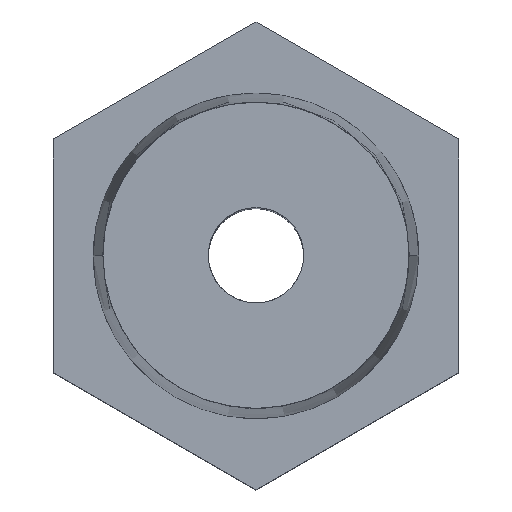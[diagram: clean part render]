
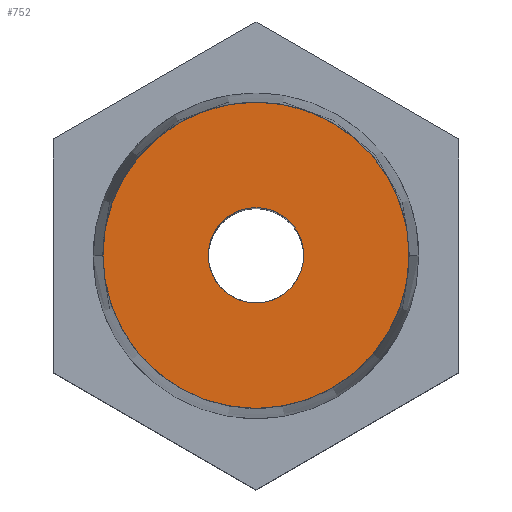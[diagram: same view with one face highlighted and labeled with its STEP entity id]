
A CAD part, top view. The second image highlights one B-rep face of the part: STEP entity #752.
In plain terms, the highlighted planar face has unit normal (0, 0, 1).
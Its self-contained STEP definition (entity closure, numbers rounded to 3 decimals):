
#21=FACE_BOUND('',#145,.T.);
#30=B_SPLINE_CURVE_WITH_KNOTS('',3,(#1611,#1612,#1613,#1614,#1615,#1616,
#1617,#1618,#1619,#1620,#1621,#1622,#1623,#1624,#1625,#1626,#1627,#1628,
#1629,#1630,#1631,#1632,#1633,#1634,#1635,#1636,#1637,#1638,#1639,#1640,
#1641,#1642,#1643,#1644,#1645,#1646,#1647),.UNSPECIFIED.,.T.,.F.,(4,3,3,
3,3,3,3,3,3,3,3,3,4),(-3.142,-2.508,-1.875,
-1.571,-0.937,-0.305,0.,0.634,
1.266,1.571,2.205,2.837,3.142),
 .UNSPECIFIED.);
#31=B_SPLINE_CURVE_WITH_KNOTS('',3,(#1649,#1650,#1651,#1652,#1653,#1654,
#1655,#1656,#1657,#1658,#1659,#1660,#1661,#1662,#1663,#1664,#1665,#1666,
#1667,#1668,#1669,#1670,#1671,#1672,#1673),.UNSPECIFIED.,.T.,.F.,(4,3,3,
3,3,3,3,3,4),(-3.142,-2.309,-1.571,-0.738,
0.,0.833,1.571,2.404,3.142),
 .UNSPECIFIED.);
#50=PLANE('',#871);
#109=FACE_OUTER_BOUND('',#144,.T.);
#144=EDGE_LOOP('',(#711));
#145=EDGE_LOOP('',(#712));
#467=VERTEX_POINT('',#1610);
#468=VERTEX_POINT('',#1648);
#589=EDGE_CURVE('',#467,#467,#30,.T.);
#590=EDGE_CURVE('',#468,#468,#31,.T.);
#711=ORIENTED_EDGE('',*,*,#589,.T.);
#712=ORIENTED_EDGE('',*,*,#590,.T.);
#752=ADVANCED_FACE('',(#109,#21),#50,.T.);
#871=AXIS2_PLACEMENT_3D('',#1609,#1060,#1061);
#1060=DIRECTION('center_axis',(0.,0.,1.));
#1061=DIRECTION('ref_axis',(1.,0.,0.));
#1609=CARTESIAN_POINT('Origin',(0.,-6.436,33.));
#1610=CARTESIAN_POINT('',(-6.426,0.,33.));
#1611=CARTESIAN_POINT('Ctrl Pts',(-6.426,0.,33.));
#1612=CARTESIAN_POINT('Ctrl Pts',(-6.426,-1.222,33.));
#1613=CARTESIAN_POINT('Ctrl Pts',(-6.042,-2.611,33.));
#1614=CARTESIAN_POINT('Ctrl Pts',(-5.208,-3.764,33.));
#1615=CARTESIAN_POINT('Ctrl Pts',(-4.377,-4.914,33.));
#1616=CARTESIAN_POINT('Ctrl Pts',(-3.117,-5.778,33.));
#1617=CARTESIAN_POINT('Ctrl Pts',(-1.83,-6.16,33.));
#1618=CARTESIAN_POINT('Ctrl Pts',(-1.21,-6.344,33.));
#1619=CARTESIAN_POINT('Ctrl Pts',(-0.587,-6.426,33.));
#1620=CARTESIAN_POINT('Ctrl Pts',(0.,-6.426,33.));
#1621=CARTESIAN_POINT('Ctrl Pts',(1.222,-6.426,33.));
#1622=CARTESIAN_POINT('Ctrl Pts',(2.611,-6.042,33.));
#1623=CARTESIAN_POINT('Ctrl Pts',(3.764,-5.208,33.));
#1624=CARTESIAN_POINT('Ctrl Pts',(4.914,-4.377,33.));
#1625=CARTESIAN_POINT('Ctrl Pts',(5.778,-3.117,33.));
#1626=CARTESIAN_POINT('Ctrl Pts',(6.16,-1.83,33.));
#1627=CARTESIAN_POINT('Ctrl Pts',(6.344,-1.21,33.));
#1628=CARTESIAN_POINT('Ctrl Pts',(6.426,-0.587,33.));
#1629=CARTESIAN_POINT('Ctrl Pts',(6.426,0.,33.));
#1630=CARTESIAN_POINT('Ctrl Pts',(6.426,1.222,33.));
#1631=CARTESIAN_POINT('Ctrl Pts',(6.042,2.611,33.));
#1632=CARTESIAN_POINT('Ctrl Pts',(5.208,3.764,33.));
#1633=CARTESIAN_POINT('Ctrl Pts',(4.377,4.914,33.));
#1634=CARTESIAN_POINT('Ctrl Pts',(3.117,5.778,33.));
#1635=CARTESIAN_POINT('Ctrl Pts',(1.83,6.16,33.));
#1636=CARTESIAN_POINT('Ctrl Pts',(1.21,6.344,33.));
#1637=CARTESIAN_POINT('Ctrl Pts',(0.587,6.426,33.));
#1638=CARTESIAN_POINT('Ctrl Pts',(0.,6.426,33.));
#1639=CARTESIAN_POINT('Ctrl Pts',(-1.222,6.426,33.));
#1640=CARTESIAN_POINT('Ctrl Pts',(-2.611,6.042,33.));
#1641=CARTESIAN_POINT('Ctrl Pts',(-3.764,5.208,33.));
#1642=CARTESIAN_POINT('Ctrl Pts',(-4.914,4.377,33.));
#1643=CARTESIAN_POINT('Ctrl Pts',(-5.778,3.117,33.));
#1644=CARTESIAN_POINT('Ctrl Pts',(-6.16,1.83,33.));
#1645=CARTESIAN_POINT('Ctrl Pts',(-6.344,1.21,33.));
#1646=CARTESIAN_POINT('Ctrl Pts',(-6.426,0.587,33.));
#1647=CARTESIAN_POINT('Ctrl Pts',(-6.426,0.,33.));
#1648=CARTESIAN_POINT('',(-2.,0.,33.));
#1649=CARTESIAN_POINT('Ctrl Pts',(-2.,0.,33.));
#1650=CARTESIAN_POINT('Ctrl Pts',(-2.,0.5,33.));
#1651=CARTESIAN_POINT('Ctrl Pts',(-1.776,1.091,33.));
#1652=CARTESIAN_POINT('Ctrl Pts',(-1.341,1.483,33.));
#1653=CARTESIAN_POINT('Ctrl Pts',(-0.957,1.831,33.));
#1654=CARTESIAN_POINT('Ctrl Pts',(-0.443,2.,33.));
#1655=CARTESIAN_POINT('Ctrl Pts',(0.,2.,33.));
#1656=CARTESIAN_POINT('Ctrl Pts',(0.5,2.,33.));
#1657=CARTESIAN_POINT('Ctrl Pts',(1.091,1.776,33.));
#1658=CARTESIAN_POINT('Ctrl Pts',(1.483,1.341,33.));
#1659=CARTESIAN_POINT('Ctrl Pts',(1.831,0.957,33.));
#1660=CARTESIAN_POINT('Ctrl Pts',(2.,0.443,33.));
#1661=CARTESIAN_POINT('Ctrl Pts',(2.,0.,33.));
#1662=CARTESIAN_POINT('Ctrl Pts',(2.,-0.5,33.));
#1663=CARTESIAN_POINT('Ctrl Pts',(1.776,-1.091,33.));
#1664=CARTESIAN_POINT('Ctrl Pts',(1.341,-1.483,33.));
#1665=CARTESIAN_POINT('Ctrl Pts',(0.957,-1.831,33.));
#1666=CARTESIAN_POINT('Ctrl Pts',(0.443,-2.,33.));
#1667=CARTESIAN_POINT('Ctrl Pts',(0.,-2.,33.));
#1668=CARTESIAN_POINT('Ctrl Pts',(-0.5,-2.,33.));
#1669=CARTESIAN_POINT('Ctrl Pts',(-1.091,-1.776,33.));
#1670=CARTESIAN_POINT('Ctrl Pts',(-1.483,-1.341,33.));
#1671=CARTESIAN_POINT('Ctrl Pts',(-1.831,-0.957,
33.));
#1672=CARTESIAN_POINT('Ctrl Pts',(-2.,-0.443,33.));
#1673=CARTESIAN_POINT('Ctrl Pts',(-2.,0.,33.));
